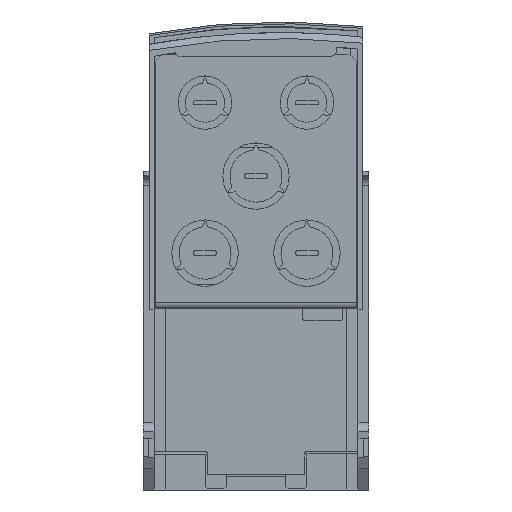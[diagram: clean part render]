
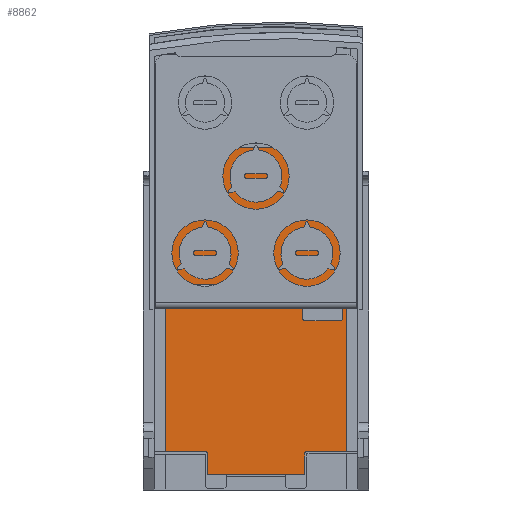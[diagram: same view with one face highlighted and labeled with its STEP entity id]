
A CAD part, front view. The second image highlights one B-rep face of the part: STEP entity #8862.
In plain terms, the highlighted planar face has unit normal (0, -1, 0).
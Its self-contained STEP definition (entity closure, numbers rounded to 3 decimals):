
#102 = VERTEX_POINT ( 'NONE', #11479 ) ;
#203 = ORIENTED_EDGE ( 'NONE', *, *, #4499, .F. ) ;
#251 = EDGE_CURVE ( 'NONE', #10919, #5120, #3101, .T. ) ;
#433 = CARTESIAN_POINT ( 'NONE',  ( -88., 31., -174.625 ) ) ;
#471 = LINE ( 'NONE', #8638, #7754 ) ;
#614 = CARTESIAN_POINT ( 'NONE',  ( -65.5, 31., -175.625 ) ) ;
#670 = DIRECTION ( 'NONE',  ( 0., 0., -1. ) ) ;
#803 = CARTESIAN_POINT ( 'NONE',  ( -65.5, 31., -175.625 ) ) ;
#808 = VECTOR ( 'NONE', #7082, 1000. ) ;
#965 = DIRECTION ( 'NONE',  ( -1., 0., 0. ) ) ;
#1231 = VECTOR ( 'NONE', #2715, 1000. ) ;
#1310 = LINE ( 'NONE', #6270, #6088 ) ;
#1518 = FACE_OUTER_BOUND ( 'NONE', #8388, .T. ) ;
#1792 = LINE ( 'NONE', #6287, #11400 ) ;
#1939 = CARTESIAN_POINT ( 'NONE',  ( -7., 31., -46.3 ) ) ;
#2117 = ORIENTED_EDGE ( 'NONE', *, *, #12019, .F. ) ;
#2140 = PLANE ( 'NONE',  #4366 ) ;
#2213 = VECTOR ( 'NONE', #9599, 1000. ) ;
#2442 = CARTESIAN_POINT ( 'NONE',  ( -66.5, 31., -175.625 ) ) ;
#2490 = DIRECTION ( 'NONE',  ( 0., 0., -1. ) ) ;
#2549 = ORIENTED_EDGE ( 'NONE', *, *, #7493, .F. ) ;
#2715 = DIRECTION ( 'NONE',  ( 0., 0., 1. ) ) ;
#2976 = VERTEX_POINT ( 'NONE', #8261 ) ;
#3084 = DIRECTION ( 'NONE',  ( 0., 0., -1. ) ) ;
#3101 = LINE ( 'NONE', #433, #7750 ) ;
#3138 = CARTESIAN_POINT ( 'NONE',  ( -83., 31., -174.625 ) ) ;
#3355 = CARTESIAN_POINT ( 'NONE',  ( -24.5, 31., -184.3 ) ) ;
#3397 = DIRECTION ( 'NONE',  ( 0., 0., -1. ) ) ;
#3735 = VERTEX_POINT ( 'NONE', #5168 ) ;
#3867 = EDGE_CURVE ( 'NONE', #3966, #5120, #1792, .T. ) ;
#3966 = VERTEX_POINT ( 'NONE', #6110 ) ;
#4082 = VERTEX_POINT ( 'NONE', #614 ) ;
#4214 = EDGE_CURVE ( 'NONE', #9038, #2976, #7139, .T. ) ;
#4366 = AXIS2_PLACEMENT_3D ( 'NONE', #7847, #8875, #3084 ) ;
#4499 = EDGE_CURVE ( 'NONE', #102, #9956, #7283, .T. ) ;
#4609 = ORIENTED_EDGE ( 'NONE', *, *, #3867, .T. ) ;
#4631 = VECTOR ( 'NONE', #4670, 1000. ) ;
#4670 = DIRECTION ( 'NONE',  ( -1., 0., 0. ) ) ;
#5120 = VERTEX_POINT ( 'NONE', #3138 ) ;
#5168 = CARTESIAN_POINT ( 'NONE',  ( -23.5, 31., -174.6 ) ) ;
#5598 = LINE ( 'NONE', #9075, #808 ) ;
#5648 = CARTESIAN_POINT ( 'NONE',  ( -7., 31., -174.6 ) ) ;
#6010 = EDGE_CURVE ( 'NONE', #3735, #8627, #10416, .T. ) ;
#6088 = VECTOR ( 'NONE', #7219, 1000. ) ;
#6110 = CARTESIAN_POINT ( 'NONE',  ( -83., 31., -46.3 ) ) ;
#6176 = AXIS2_PLACEMENT_3D ( 'NONE', #12169, #6370, #670 ) ;
#6270 = CARTESIAN_POINT ( 'NONE',  ( -2., 31., -174.6 ) ) ;
#6287 = CARTESIAN_POINT ( 'NONE',  ( -83., 31., -46.3 ) ) ;
#6370 = DIRECTION ( 'NONE',  ( 0., -1., 0. ) ) ;
#6598 = LINE ( 'NONE', #803, #1231 ) ;
#6630 = CIRCLE ( 'NONE', #12300, 1. ) ;
#6792 = ORIENTED_EDGE ( 'NONE', *, *, #12339, .T. ) ;
#6810 = EDGE_CURVE ( 'NONE', #4082, #10919, #6630, .T. ) ;
#7082 = DIRECTION ( 'NONE',  ( 0., 0., -1. ) ) ;
#7100 = CARTESIAN_POINT ( 'NONE',  ( -66.5, 31., -174.625 ) ) ;
#7139 = LINE ( 'NONE', #7472, #4631 ) ;
#7219 = DIRECTION ( 'NONE',  ( -1., 0., 0. ) ) ;
#7283 = LINE ( 'NONE', #1939, #2213 ) ;
#7472 = CARTESIAN_POINT ( 'NONE',  ( -65.5, 31., -184.3 ) ) ;
#7493 = EDGE_CURVE ( 'NONE', #8627, #9038, #5598, .T. ) ;
#7750 = VECTOR ( 'NONE', #8075, 1000. ) ;
#7754 = VECTOR ( 'NONE', #965, 1000. ) ;
#7847 = CARTESIAN_POINT ( 'NONE',  ( -7., 31., -46.3 ) ) ;
#8021 = EDGE_CURVE ( 'NONE', #2976, #4082, #6598, .T. ) ;
#8075 = DIRECTION ( 'NONE',  ( -1., 0., 0. ) ) ;
#8261 = CARTESIAN_POINT ( 'NONE',  ( -65.5, 31., -184.3 ) ) ;
#8388 = EDGE_LOOP ( 'NONE', ( #2117, #203, #6792, #4609, #12108, #10317, #11725, #11838, #2549, #10423 ) ) ;
#8438 = CARTESIAN_POINT ( 'NONE',  ( -24.5, 31., -175.6 ) ) ;
#8627 = VERTEX_POINT ( 'NONE', #8438 ) ;
#8638 = CARTESIAN_POINT ( 'NONE',  ( -7., 31., -46.3 ) ) ;
#8862 = ADVANCED_FACE ( 'NONE', ( #1518 ), #2140, .T. ) ;
#8875 = DIRECTION ( 'NONE',  ( 0., -1., 0. ) ) ;
#9038 = VERTEX_POINT ( 'NONE', #3355 ) ;
#9075 = CARTESIAN_POINT ( 'NONE',  ( -24.5, 31., -175.6 ) ) ;
#9177 = DIRECTION ( 'NONE',  ( 0., -1., 0. ) ) ;
#9599 = DIRECTION ( 'NONE',  ( 0., 0., -1. ) ) ;
#9956 = VERTEX_POINT ( 'NONE', #5648 ) ;
#10317 = ORIENTED_EDGE ( 'NONE', *, *, #6810, .F. ) ;
#10416 = CIRCLE ( 'NONE', #6176, 1. ) ;
#10423 = ORIENTED_EDGE ( 'NONE', *, *, #6010, .F. ) ;
#10919 = VERTEX_POINT ( 'NONE', #7100 ) ;
#11400 = VECTOR ( 'NONE', #2490, 1000. ) ;
#11479 = CARTESIAN_POINT ( 'NONE',  ( -7., 31., -46.3 ) ) ;
#11725 = ORIENTED_EDGE ( 'NONE', *, *, #8021, .F. ) ;
#11838 = ORIENTED_EDGE ( 'NONE', *, *, #4214, .F. ) ;
#12019 = EDGE_CURVE ( 'NONE', #9956, #3735, #1310, .T. ) ;
#12108 = ORIENTED_EDGE ( 'NONE', *, *, #251, .F. ) ;
#12169 = CARTESIAN_POINT ( 'NONE',  ( -23.5, 31., -175.6 ) ) ;
#12300 = AXIS2_PLACEMENT_3D ( 'NONE', #2442, #9177, #3397 ) ;
#12339 = EDGE_CURVE ( 'NONE', #102, #3966, #471, .T. ) ;
